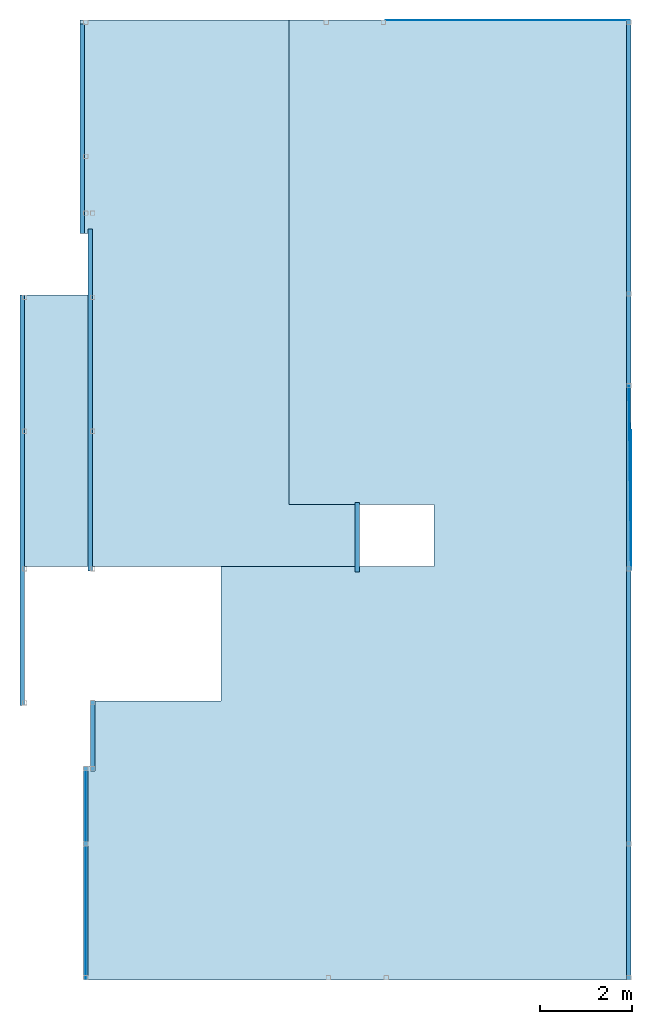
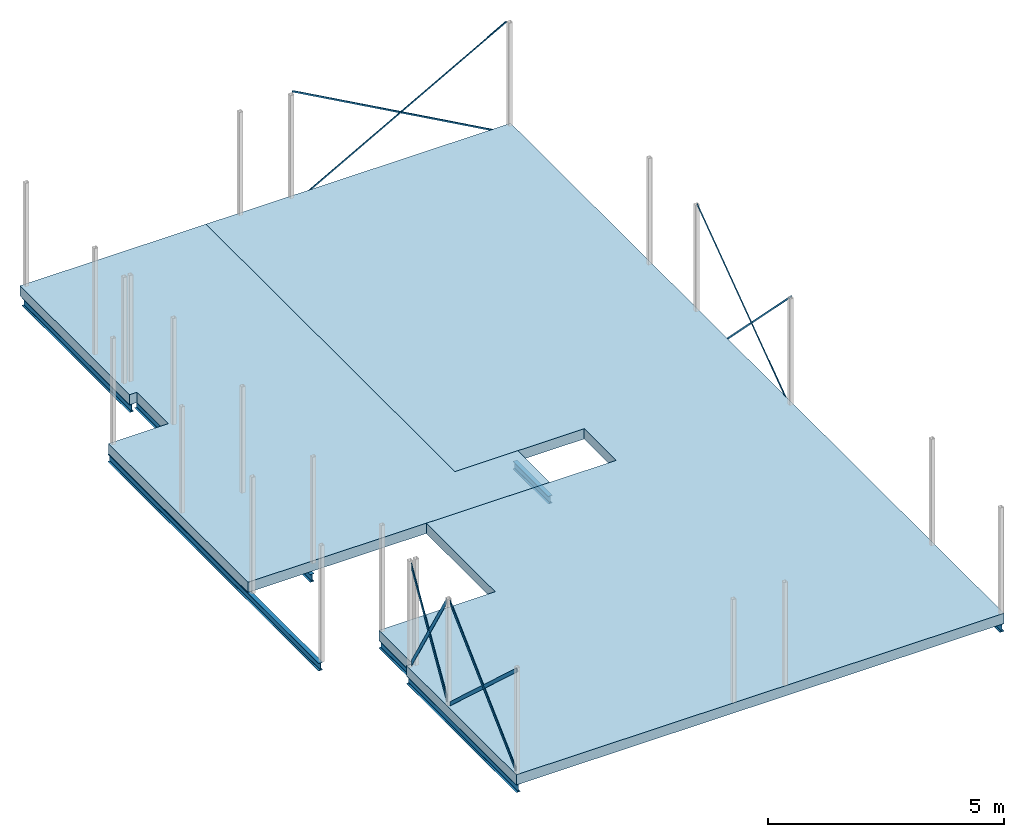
# One storey, part 4 of 4: 15 beams, 2 slabs.
"""IFC2X3 building model written with IfcOpenShell, lengths in millimetres."""

from ifc_helpers import new_model, entity, si_unit, converted_unit, derived_unit, direction, frame, frame_2d, origin, origin_2d_with_axis, place, context, subcontext, project, spatial, polyline, rectangle, i_section, outline, extrude, clip, halfspace, material, layer, layer_set, layer_usage, type_object, element, save


model = new_model("IFC2X3")

# Units and contexts
model_context = context("Model", 3, precision=0.01, world=origin(), true_north=direction((6.12303176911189e-17, 1.0)))
body_context = subcontext(model_context, "Body", "Model", "MODEL_VIEW")
ifc_project = project(units=[si_unit("LENGTHUNIT", "METRE", prefix="MILLI"), si_unit("AREAUNIT", "SQUARE_METRE"), si_unit("VOLUMEUNIT", "CUBIC_METRE"), converted_unit("PLANEANGLEUNIT", "DEGREE", entity("IfcRatioMeasure", 0.0174532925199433), si_unit("PLANEANGLEUNIT", "RADIAN"), dimensions=[0, 0, 0, 0, 0, 0, 0]), si_unit("MASSUNIT", "GRAM", prefix="KILO"), derived_unit("MASSDENSITYUNIT", [(si_unit("MASSUNIT", "GRAM", prefix="KILO"), 1), (si_unit("LENGTHUNIT", "METRE"), -3)]), si_unit("TIMEUNIT", "SECOND"), si_unit("FREQUENCYUNIT", "HERTZ"), si_unit("THERMODYNAMICTEMPERATUREUNIT", "DEGREE_CELSIUS"), derived_unit("THERMALTRANSMITTANCEUNIT", [(si_unit("MASSUNIT", "GRAM", prefix="KILO"), 1), (si_unit("THERMODYNAMICTEMPERATUREUNIT", "KELVIN"), -1), (si_unit("TIMEUNIT", "SECOND"), -3)]), derived_unit("VOLUMETRICFLOWRATEUNIT", [(si_unit("LENGTHUNIT", "METRE"), 3), (si_unit("TIMEUNIT", "SECOND"), -1)]), si_unit("ELECTRICCURRENTUNIT", "AMPERE"), si_unit("ELECTRICVOLTAGEUNIT", "VOLT"), si_unit("POWERUNIT", "WATT"), si_unit("FORCEUNIT", "NEWTON", prefix="KILO"), si_unit("ILLUMINANCEUNIT", "LUX"), si_unit("LUMINOUSFLUXUNIT", "LUMEN"), si_unit("LUMINOUSINTENSITYUNIT", "CANDELA"), derived_unit("USERDEFINED", [(si_unit("MASSUNIT", "GRAM", prefix="KILO"), -1), (si_unit("LENGTHUNIT", "METRE"), -2), (si_unit("TIMEUNIT", "SECOND"), 3), (si_unit("LUMINOUSFLUXUNIT", "LUMEN"), 1)]), derived_unit("LINEARVELOCITYUNIT", [(si_unit("LENGTHUNIT", "METRE"), 1), (si_unit("TIMEUNIT", "SECOND"), -1)]), si_unit("PRESSUREUNIT", "PASCAL"), derived_unit("USERDEFINED", [(si_unit("LENGTHUNIT", "METRE"), -2), (si_unit("MASSUNIT", "GRAM", prefix="KILO"), 1), (si_unit("TIMEUNIT", "SECOND"), -2)])], contexts=[model_context])

# Site, building, storey
site_placement = place(None, frame((0.0, 0.0, 101000.0)))
site = spatial("IfcSite", under=ifc_project, at=site_placement, Name="Default", CompositionType="ELEMENT")
building_placement = place(site_placement, origin())
building = spatial("IfcBuilding", under=site, at=building_placement, CompositionType="ELEMENT")
storey_placement = place(building_placement, frame((0.0, 0.0, 3150.0)))
storey = spatial("IfcBuildingStorey", under=building, at=storey_placement, Name="02", CompositionType="ELEMENT", Elevation=3149.9999999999)

# Beams
ifc_material_1 = material(Name="Stål - S355")
beam_type_1 = type_object("IfcBeamType", Name="Bjelke IPE:IPE 200", PredefinedType="BEAM")
beam_1_placement = place(storey_placement, frame((23111.2644969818, 23496.0197093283, -465.0), z_axis=(0.0, 0.0, 1.0), x_axis=(0.0, 1.0, 0.0)))
element("IfcBeam", 1, at=beam_1_placement, inside=storey, type_object=beam_type_1, material=ifc_material_1, Name="Bjelke IPE:IPE 200", ObjectType="Bjelke IPE:IPE 200", context=body_context, shape_type="SweptSolid", body=[
    extrude(i_section(OverallWidth=99.9999999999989, OverallDepth=200.0, WebThickness=5.59999999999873, FlangeThickness=8.50000000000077, FilletRadius=12.000000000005, at=frame_2d((5.47117906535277e-13, 6.49791331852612e-12), x_axis=(0.0, 1.0))), frame((-47.9752237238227, 0.0, 100.0), z_axis=(1.0, 0.0, 0.0), x_axis=(0.0, 0.0, -1.0)), (0.0, 0.0, 1.0), 20939.9062673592),
])
beam_2_placement = place(storey_placement, frame((11411.2644969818, 28058.4336358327, -465.0), z_axis=(0.0, 0.0, 1.0), x_axis=(0.0, 1.0, 0.0)))
element("IfcBeam", 2, at=beam_2_placement, inside=storey, type_object=beam_type_1, material=ifc_material_1, Name="Bjelke IPE:IPE 200", ObjectType="Bjelke IPE:IPE 200", context=body_context, shape_type="SweptSolid", body=[
    extrude(i_section(OverallWidth=100.000000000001, OverallDepth=200.0, WebThickness=5.60000000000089, FlangeThickness=8.50000000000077, FilletRadius=11.9999999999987, at=frame_2d((5.47117906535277e-13, -1.08357767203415e-12), x_axis=(0.0, 1.0))), frame((-49.906267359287, 0.0, 100.0), z_axis=(1.0, 0.0, 0.0), x_axis=(0.0, 0.0, -1.0)), (0.0, 0.0, 1.0), 1536.39754447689),
])
beam_3_placement = place(storey_placement, frame((17186.2644969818, 32465.9328266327, 0.0), z_axis=(0.0, 0.0, 1.0), x_axis=(0.0, 1.0, 0.0)))
element("IfcBeam", 3, at=beam_3_placement, inside=storey, type_object=beam_type_1, material=ifc_material_1, Name="Bjelke IPE:IPE 200", ObjectType="Bjelke IPE:IPE 200", context=body_context, shape_type="SweptSolid", body=[
    extrude(i_section(OverallWidth=100.000000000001, OverallDepth=200.0, WebThickness=5.60000000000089, FlangeThickness=8.50000000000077, FilletRadius=11.9999999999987, at=frame_2d((5.47117906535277e-13, 1.08357767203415e-12), x_axis=(0.0, 1.0))), frame((-112.606267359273, 0.0, -365.0), z_axis=(1.0, 0.0, 0.0), x_axis=(0.0, 0.0, -1.0)), (0.0, 0.0, 1.0), 1508.38007486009),
])
beam_4_placement = place(storey_placement, frame((11261.2644969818, 23494.5531223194, -465.0), z_axis=(0.0, 0.0, 1.0), x_axis=(0.0, 1.0, 0.0)))
element("IfcBeam", 4, at=beam_4_placement, inside=storey, type_object=beam_type_1, material=ifc_material_1, Name="Bjelke IPE:IPE 200", ObjectType="Bjelke IPE:IPE 200", context=body_context, shape_type="SweptSolid", body=[
    extrude(i_section(OverallWidth=99.9999999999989, OverallDepth=200.0, WebThickness=5.60000000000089, FlangeThickness=8.50000000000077, FilletRadius=11.9999999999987, at=frame_2d((5.47117906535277e-13, 1.08357767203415e-12), x_axis=(0.0, 1.0))), frame((-46.5086367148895, 0.0, 100.0), z_axis=(1.0, 0.0, 0.0), x_axis=(0.0, 0.0, -1.0)), (0.0, 0.0, 1.0), 4660.3891502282),
])
beam_5_placement = place(storey_placement, frame((9875.97976606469, 38392.9507529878, 0.0), z_axis=(0.0, 0.0, 1.0), x_axis=(0.0, -1.0, 0.0)))
element("IfcBeam", 5, at=beam_5_placement, inside=storey, type_object=beam_type_1, material=ifc_material_1, Name="Bjelke IPE:IPE 200", ObjectType="Bjelke IPE:IPE 200", context=body_context, shape_type="SweptSolid", body=[
    extrude(i_section(OverallWidth=100.000000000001, OverallDepth=200.0, WebThickness=5.60000000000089, FlangeThickness=8.50000000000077, FilletRadius=11.9999999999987, at=frame_2d((5.47117906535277e-13, 1.08357767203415e-12), x_axis=(0.0, 1.0))), frame((0.0, 0.0, -365.0), z_axis=(1.0, 0.0, 0.0), x_axis=(0.0, 0.0, -1.0)), (0.0, 0.0, 1.0), 8950.77674199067),
])
beam_6_placement = place(storey_placement, frame((11360.9797660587, 32374.2507530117, 0.0), z_axis=(0.0, 0.0, 1.0), x_axis=(0.0, 1.0, 0.0)))
element("IfcBeam", 6, at=beam_6_placement, inside=storey, type_object=beam_type_1, material=ifc_material_1, Name="Bjelke IPE:IPE 200", ObjectType="Bjelke IPE:IPE 200", context=body_context, shape_type="SweptSolid", body=[
    extrude(i_section(OverallWidth=100.000000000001, OverallDepth=200.0, WebThickness=5.60000000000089, FlangeThickness=8.50000000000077, FilletRadius=11.9999999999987, at=frame_2d((5.47117906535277e-13, -3.25073301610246e-12), x_axis=(0.0, 1.0))), frame((0.0, 0.0, -365.0), z_axis=(1.0, 0.0, 0.0), x_axis=(0.0, 0.0, -1.0)), (0.0, 0.0, 1.0), 7453.39310401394),
])
beam_7_placement = place(storey_placement, frame((11186.2644969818, 39733.283149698, 0.0), z_axis=(0.0, 0.0, 1.0), x_axis=(0.0, 1.0, 0.0)))
element("IfcBeam", 7, at=beam_7_placement, inside=storey, type_object=beam_type_1, material=ifc_material_1, Name="Bjelke IPE:IPE 200", ObjectType="Bjelke IPE:IPE 200", context=body_context, shape_type="SweptSolid", body=[
    extrude(i_section(OverallWidth=100.000000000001, OverallDepth=200.0, WebThickness=5.60000000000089, FlangeThickness=8.50000000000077, FilletRadius=11.9999999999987, at=frame_2d((5.47117906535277e-13, 1.08357767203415e-12), x_axis=(0.0, 1.0))), frame((0.0, 0.0, -365.0), z_axis=(1.0, 0.0, 0.0), x_axis=(0.0, 0.0, -1.0)), (0.0, 0.0, 1.0), 4571.6504154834),
])
ifc_material_2 = material(Name="Structural Framing Fireproofing")
beam_type_2 = type_object("IfcBeamType", Name="Bjelke Stålplate:VINDKRYSS", PredefinedType="BEAM")
beam_8_placement = place(storey_placement, frame((11261.2644969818, 28175.7629851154, -197.756193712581), z_axis=(1.0, 0.0, 0.0), x_axis=(0.0, -0.510254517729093, 0.86002344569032)))
element("IfcBeam", 8, at=beam_8_placement, inside=storey, type_object=beam_type_2, material=ifc_material_2, Name="Bjelke Stålplate:VINDKRYSS", ObjectType="Bjelke Stålplate:VINDKRYSS", context=body_context, shape_type="Clipping", body=[
    clip(clip(extrude(rectangle(XDim=79.9999999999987, YDim=8.00000000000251, at=frame_2d((1.08291153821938e-12, -2.28084218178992e-12), x_axis=(0.0, 1.0))), frame((299.710058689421, 0.0, 0.0), z_axis=(1.0, 0.0, 0.0), x_axis=(0.0, 0.0, -1.0)), (0.0, 0.0, 1.0), 3075.49409951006), halfspace(frame((1014.08831074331, 1360.85719067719, -37.4000000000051), z_axis=(0.510254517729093, 0.86002344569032, 0.0), x_axis=(0.86002344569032, -0.510254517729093, 0.0)), False)), halfspace(frame((248.460140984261, 70.4067315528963, 37.4000000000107), z_axis=(-0.510254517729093, -0.86002344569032, 0.0), x_axis=(0.86002344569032, -0.510254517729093, 0.0)), False)),
])
beam_9_placement = place(storey_placement, frame((11261.2644969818, 28065.1090583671, 2766.21059492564), z_axis=(1.0, 0.0, 0.0), x_axis=(0.0, -0.511622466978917, -0.859210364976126)))
element("IfcBeam", 9, at=beam_9_placement, inside=storey, type_object=beam_type_2, material=ifc_material_2, Name="Bjelke Stålplate:VINDKRYSS", ObjectType="Bjelke Stålplate:VINDKRYSS", context=body_context, shape_type="Clipping", body=[
    clip(clip(extrude(rectangle(XDim=80.0000000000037, YDim=8.00000000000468, at=frame_2d((-1.08268949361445e-12, -2.8066438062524e-13), x_axis=(0.0, 1.0))), frame((82.6918492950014, 0.0, 0.0), z_axis=(1.0, 0.0, 0.0), x_axis=(0.0, 0.0, -1.0)), (0.0, 0.0, 1.0), 3067.14386749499), halfspace(frame((2433.16989100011, 1359.60762031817, 37.3999999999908), z_axis=(-0.511622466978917, 0.859210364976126, 0.0), x_axis=(-0.859210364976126, -0.511622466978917, 0.0)), False)), halfspace(frame((3200.85064519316, 70.3771748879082, -37.4000000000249), z_axis=(0.511622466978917, -0.859210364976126, 0.0), x_axis=(-0.859210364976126, -0.511622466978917, 0.0)), False)),
])
beam_10_placement = place(storey_placement, frame((11261.2644969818, 26417.9507529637, 0.0), z_axis=(0.0, 0.675495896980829, 0.737363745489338), x_axis=(0.0, -0.737363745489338, 0.675495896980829)))
element("IfcBeam", 10, at=beam_10_placement, inside=storey, type_object=beam_type_2, material=ifc_material_2, Name="Bjelke Stålplate:VINDKRYSS", ObjectType="Bjelke Stålplate:VINDKRYSS", context=body_context, shape_type="Clipping", body=[
    clip(extrude(rectangle(XDim=80.000000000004, YDim=8.00000000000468, at=frame_2d((0.0, -1.08268949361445e-12), x_axis=(1.0, 0.0))), frame((58.2889576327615, 0.0, 0.0), z_axis=(1.0, 0.0, 0.0), x_axis=(0.0, 0.0, -1.0)), (0.0, 0.0, 1.0), 3901.99295433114), halfspace(frame((38.1055442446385, 37.3999999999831, -62.0319876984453), z_axis=(-0.737363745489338, 0.0, 0.675495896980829), x_axis=(0.675495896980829, 0.0, 0.737363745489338)), False)),
])
beam_11_placement = place(storey_placement, frame((11261.2644969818, 26384.900872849, 2733.70447995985), z_axis=(0.0, -0.687572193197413, 0.726116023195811), x_axis=(0.0, -0.726116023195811, -0.687572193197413)))
element("IfcBeam", 11, at=beam_11_placement, inside=storey, type_object=beam_type_2, material=ifc_material_2, Name="Bjelke Stålplate:VINDKRYSS", ObjectType="Bjelke Stålplate:VINDKRYSS", context=body_context, shape_type="Clipping", body=[
    clip(clip(extrude(rectangle(XDim=80.0000000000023, YDim=8.00000000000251, at=frame_2d((0.0, 1.0831335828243e-12), x_axis=(1.0, 0.0))), frame((13.010637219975, 0.0, 0.0), z_axis=(1.0, 0.0, 0.0), x_axis=(0.0, 0.0, -1.0)), (0.0, 0.0, 1.0), 3904.34267374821), halfspace(frame((1920.20070281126, 37.3999999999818, -1974.10307107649), z_axis=(-0.726116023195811, 0.0, -0.687572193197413), x_axis=(-0.687572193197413, 0.0, 0.726116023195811)), False)), halfspace(frame((3938.80324729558, -37.4000000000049, -62.6523739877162), z_axis=(0.726116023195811, 0.0, 0.687572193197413), x_axis=(-0.687572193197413, 0.0, 0.726116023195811)), False)),
])
beam_type_3 = type_object("IfcBeamType", Name="Bjelke Stålplate:40x5 mm", PredefinedType="BEAM")
beam_12_placement = place(storey_placement, frame((23111.2644969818, 44387.9507529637, 2675.0), z_axis=(-0.485500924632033, 0.0, 0.874236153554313), x_axis=(-0.874236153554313, 0.0, -0.485500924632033)))
element("IfcBeam", 12, at=beam_12_placement, inside=storey, type_object=beam_type_3, material=ifc_material_2, Name="Bjelke Stålplate:40x5 mm", ObjectType="Bjelke Stålplate:40x5 mm", context=body_context, shape_type="SweptSolid", body=[
    extrude(rectangle(XDim=40.0000000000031, YDim=5.00000000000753, at=origin_2d_with_axis()), frame((50.9011464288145, 0.0, 20.0), z_axis=(1.0, 0.0, 0.0), x_axis=(0.0, 0.0, -1.0)), (0.0, 0.0, 1.0), 5992.00009044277),
])
beam_13_placement = place(storey_placement, frame((23111.2644969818, 44387.9507529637, -265.0), z_axis=(0.485500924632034, 0.0, 0.874236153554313), x_axis=(-0.874236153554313, 0.0, 0.485500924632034)))
element("IfcBeam", 13, at=beam_13_placement, inside=storey, type_object=beam_type_3, material=ifc_material_2, Name="Bjelke Stålplate:40x5 mm", ObjectType="Bjelke Stålplate:40x5 mm", context=body_context, shape_type="SweptSolid", body=[
    extrude(rectangle(XDim=40.0000000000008, YDim=5.00000000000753, at=frame_2d((2.36255459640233e-13, 4.33142410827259e-12), x_axis=(1.0, 0.0))), frame((0.0, 0.0, 20.0), z_axis=(1.0, 0.0, 0.0), x_axis=(0.0, 0.0, -1.0)), (0.0, 0.0, 1.0), 6069.08221377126),
])
beam_14_placement = place(storey_placement, frame((23161.2644969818, 32417.9507529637, -265.0), z_axis=(0.00755468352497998, -0.604374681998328, 0.796664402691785), x_axis=(-0.00995752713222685, 0.796602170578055, 0.604421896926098)))
element("IfcBeam", 14, at=beam_14_placement, inside=storey, type_object=beam_type_3, material=ifc_material_2, Name="Bjelke Stålplate:40x5 mm", ObjectType="Bjelke Stålplate:40x5 mm", context=body_context, shape_type="SweptSolid", body=[
    extrude(rectangle(XDim=40.0000000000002, YDim=5.00000000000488, at=frame_2d((2.32702745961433e-13, 2.16560103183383e-12), x_axis=(1.0, 0.0))), frame((0.0, 0.0, 20.0), z_axis=(1.0, 0.0, 0.0), x_axis=(0.0, 0.0, -1.0)), (0.0, 0.0, 1.0), 4999.05544904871),
])
beam_15_placement = place(storey_placement, frame((23161.2644969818, 35417.9507529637, -265.0), z_axis=(1.0, 0.0, 0.0), x_axis=(0.0, -0.70299409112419, 0.711195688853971)))
element("IfcBeam", 15, at=beam_15_placement, inside=storey, type_object=beam_type_3, material=ifc_material_2, Name="Bjelke Stålplate:40x5 mm", ObjectType="Bjelke Stålplate:40x5 mm", context=body_context, shape_type="SweptSolid", body=[
    extrude(rectangle(XDim=40.0000000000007, YDim=5.00000000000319, at=frame_2d((2.16582307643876e-12, 2.49045228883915e-12), x_axis=(0.0, 1.0))), frame((0.0, -20.0, 0.0), z_axis=(1.0, 0.0, 0.0), x_axis=(0.0, 0.0, -1.0)), (0.0, 0.0, 1.0), 4227.17836014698),
])

# Slabs
ifc_material_3 = material(Name="HD1200mm")
ifc_layer = layer(ifc_material_3, 265.0)
ifc_layer_set = layer_set([ifc_layer], Name="Floor:HD-265")
ifc_layer_usage_1 = layer_usage(ifc_layer_set, "AXIS3", "POSITIVE", 0.0)
slab_1_placement = place(storey_placement, origin())
element("IfcSlab", 16, at=slab_1_placement, inside=storey, material=ifc_layer_usage_1, Name="Floor:HD-265", ObjectType="Floor:HD-265", PredefinedType="FLOOR", context=body_context, shape_type="SweptSolid", body=[
    extrude(outline(polyline([(-8513.46893768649, -4538.33276669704), (-3852.98605481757, -4538.33276669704), (-3852.98605481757, -4388.33276669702), (-2421.12026810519, -4388.33276669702), (-2421.12026810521, -1539.49701818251), (504.513135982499, -1539.49701818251), (504.513135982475, 3111.66723330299), (1856.53106231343, 3111.667233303), (1856.53106231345, -57.1719150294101), (12426.5310623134, -57.1719150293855), (12426.5310623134, 7411.66723330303), (-8513.46893768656, 7411.66723330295), (-8513.46893768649, -4538.33276669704)])), frame((15749.5972636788, 31961.4196906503, 0.0), z_axis=(0.0, 0.0, -1.0), x_axis=(0.0, 1.0, 0.0)), (0.0, 0.0, 1.0), 265.0),
])
ifc_layer_usage_2 = layer_usage(ifc_layer_set, "AXIS3", "POSITIVE", 0.0)
slab_2_placement = place(storey_placement, origin())
element("IfcSlab", 17, at=slab_2_placement, inside=storey, material=ifc_layer_usage_2, Name="Floor:HD-265", ObjectType="Floor:HD-265", PredefinedType="FLOOR", context=body_context, shape_type="SweptSolid", body=[
    extrude(outline(polyline([(-5293.68082041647, -3202.34606269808), (633.33710593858, -3202.34606269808), (633.337105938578, -1732.34606270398), (1973.66950264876, -1732.34606270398), (1973.66950264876, -1907.34606270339), (6628.3371059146, -1907.34606270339), (6628.33710591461, 2649.09951988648), (-3941.66289408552, 2649.0995198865), (-3941.66289408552, 4192.93866821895), (-5293.68082041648, 4192.93866821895), (-5293.68082041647, -3202.34606269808)])), frame((13043.3258287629, 37759.6136470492, 0.0), z_axis=(0.0, 0.0, -1.0), x_axis=(0.0, 1.0, 0.0)), (0.0, 0.0, 1.0), 265.0),
])

save(model, "model.ifc")
